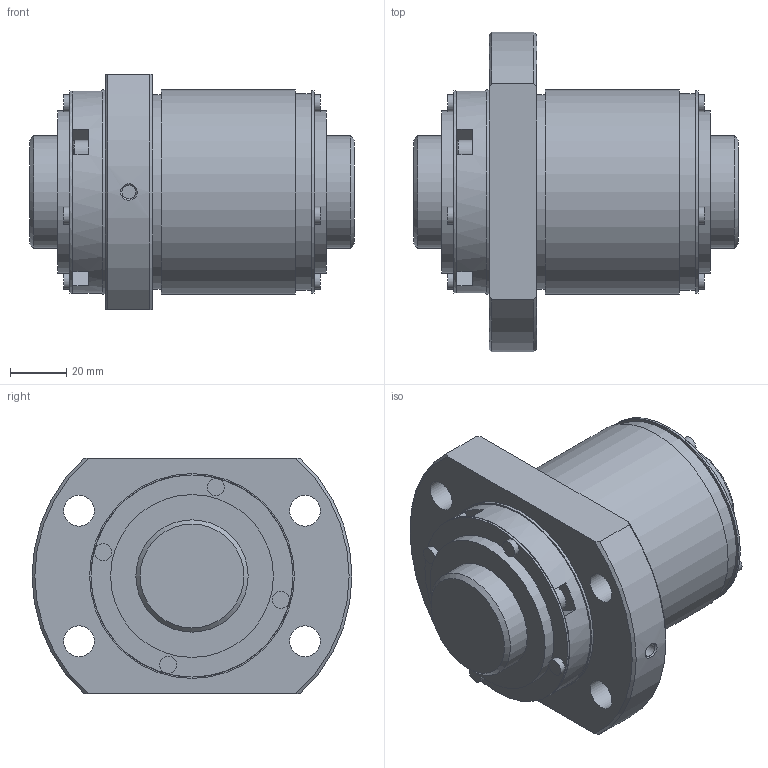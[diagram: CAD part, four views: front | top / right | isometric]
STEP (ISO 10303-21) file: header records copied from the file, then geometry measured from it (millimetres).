
FILE_DESCRIPTION(/* description */ ('STEP AP203'),/* implementation_level */ '2;1');
FILE_NAME(/* name */ 'BLK4040-3.6ZZG1+115.8LC3_0_1300',/* time_stamp */ '2025-01-16T07:05:14+01:00',/* author */ ('License CC BY-ND 4.0'),/* organization */ ('CADENAS'),/* preprocessor_version */ 'ST-DEVELOPER v19.3',/* originating_system */ 'PARTsolutions',/* authorisation */ ' ');
FILE_SCHEMA (('CONFIG_CONTROL_DESIGN'));
Length unit declared in the file: millimetre
Products named in the file (3): BLK4040-3.6ZZG1+115.8LC3_0_1300; ZZ0130BLK4040-3.60Shaft; RR0130BLK4040-3.6Nut
Assembly tree (2 placements, depth 2):
  BLK4040-3.6ZZG1+115.8LC3_0_1300
    ZZ0130BLK4040-3.60Shaft
    RR0130BLK4040-3.6Nut
Bounding box: 115.8 x 114 x 84 mm (x, y, z)
Volume: 474481.3 mm3; surface area: 72929.7 mm2
Topology: 2 solids, 2 shells, 154 faces, 343 edges, 214 vertices
Faces by surface type: plane 95, cylinder 38, cone 17, torus 4
Full cylindrical faces by diameter (mm): 4.5 x4, 4.917 x1, 6 x8, 9.45 x4, 11 x4, 40 x2, 58 x2, 69.35 x1, 70 x1, 72 x3, 73 x2
Entity records: 4036 total; most frequent: CARTESIAN_POINT 769, DIRECTION 686, ORIENTED_EDGE 558, AXIS2_PLACEMENT_3D 283, EDGE_CURVE 279, FACE_BOUND 238, EDGE_LOOP 234, VERTEX_POINT 203
